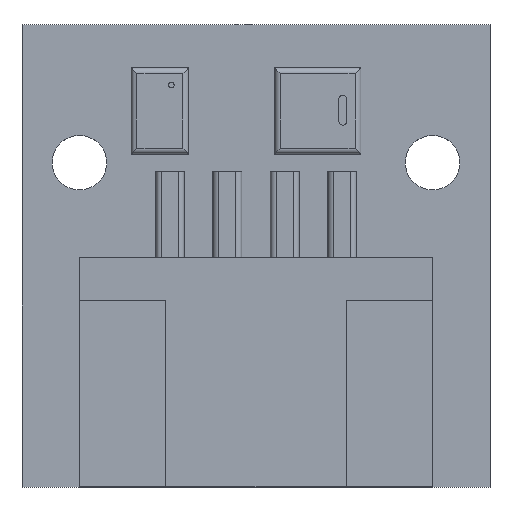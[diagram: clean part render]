
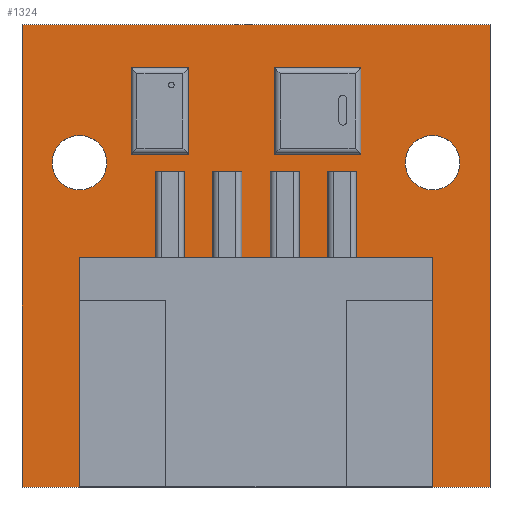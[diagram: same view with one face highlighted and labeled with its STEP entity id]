
A CAD part, top view. The second image highlights one B-rep face of the part: STEP entity #1324.
In plain terms, the highlighted planar face has unit normal (0, 0, 1).
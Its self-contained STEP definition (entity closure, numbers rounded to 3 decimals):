
#37=FACE_BOUND('',#198,.T.);
#38=FACE_BOUND('',#199,.T.);
#48=PLANE('',#1433);
#113=FACE_OUTER_BOUND('',#197,.T.);
#197=EDGE_LOOP('',(#947,#948,#949,#950));
#198=EDGE_LOOP('',(#951));
#199=EDGE_LOOP('',(#952));
#286=LINE('',#1952,#439);
#289=LINE('',#1958,#442);
#292=LINE('',#1964,#445);
#295=LINE('',#1968,#448);
#439=VECTOR('',#1561,10.);
#442=VECTOR('',#1566,10.);
#445=VECTOR('',#1571,10.);
#448=VECTOR('',#1576,10.);
#588=CIRCLE('',#1424,0.95);
#590=CIRCLE('',#1427,0.95);
#614=VERTEX_POINT('',#1934);
#616=VERTEX_POINT('',#1940);
#620=VERTEX_POINT('',#1949);
#621=VERTEX_POINT('',#1951);
#623=VERTEX_POINT('',#1957);
#625=VERTEX_POINT('',#1963);
#736=EDGE_CURVE('',#614,#614,#588,.T.);
#739=EDGE_CURVE('',#616,#616,#590,.T.);
#744=EDGE_CURVE('',#621,#620,#286,.T.);
#747=EDGE_CURVE('',#623,#621,#289,.T.);
#750=EDGE_CURVE('',#625,#623,#292,.T.);
#753=EDGE_CURVE('',#620,#625,#295,.T.);
#947=ORIENTED_EDGE('',*,*,#753,.T.);
#948=ORIENTED_EDGE('',*,*,#750,.T.);
#949=ORIENTED_EDGE('',*,*,#747,.T.);
#950=ORIENTED_EDGE('',*,*,#744,.T.);
#951=ORIENTED_EDGE('',*,*,#739,.T.);
#952=ORIENTED_EDGE('',*,*,#736,.T.);
#1324=ADVANCED_FACE('',(#113,#37,#38),#48,.T.);
#1424=AXIS2_PLACEMENT_3D('',#1935,#1545,#1546);
#1427=AXIS2_PLACEMENT_3D('',#1941,#1552,#1553);
#1433=AXIS2_PLACEMENT_3D('',#1969,#1577,#1578);
#1545=DIRECTION('center_axis',(0.,0.,-1.));
#1546=DIRECTION('ref_axis',(1.,0.,0.));
#1552=DIRECTION('center_axis',(0.,0.,-1.));
#1553=DIRECTION('ref_axis',(1.,0.,0.));
#1561=DIRECTION('',(0.,-1.,0.));
#1566=DIRECTION('',(-1.,0.,0.));
#1571=DIRECTION('',(0.,1.,0.));
#1576=DIRECTION('',(1.,0.,0.));
#1577=DIRECTION('center_axis',(0.,0.,1.));
#1578=DIRECTION('ref_axis',(1.,0.,0.));
#1934=CARTESIAN_POINT('',(5.2,3.25,1.1));
#1935=CARTESIAN_POINT('Origin',(6.15,3.25,1.1));
#1940=CARTESIAN_POINT('',(-7.1,3.25,1.1));
#1941=CARTESIAN_POINT('Origin',(-6.15,3.25,1.1));
#1949=CARTESIAN_POINT('',(-8.15,-8.05,1.1));
#1951=CARTESIAN_POINT('',(-8.15,8.05,1.1));
#1952=CARTESIAN_POINT('',(-8.15,-8.05,1.1));
#1957=CARTESIAN_POINT('',(8.15,8.05,1.1));
#1958=CARTESIAN_POINT('',(-8.15,8.05,1.1));
#1963=CARTESIAN_POINT('',(8.15,-8.05,1.1));
#1964=CARTESIAN_POINT('',(8.15,8.05,1.1));
#1968=CARTESIAN_POINT('',(8.15,-8.05,1.1));
#1969=CARTESIAN_POINT('Origin',(0.,0.,
1.1));
